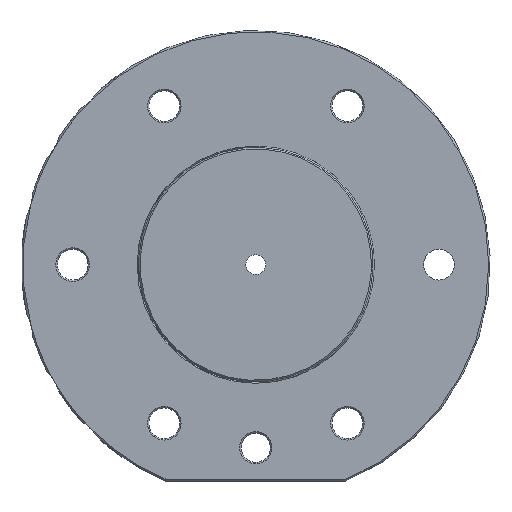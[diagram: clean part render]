
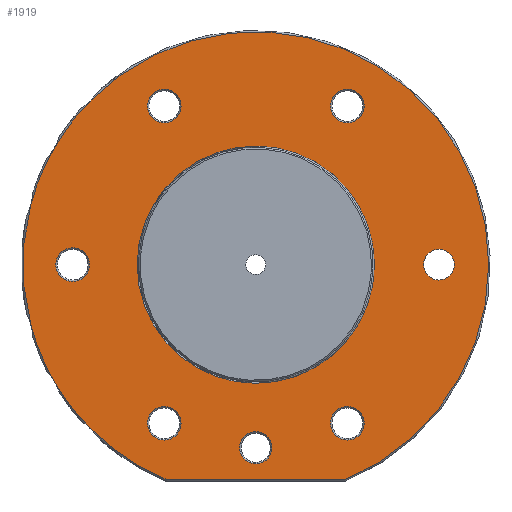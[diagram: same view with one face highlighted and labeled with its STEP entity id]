
A CAD part, top view. The second image highlights one B-rep face of the part: STEP entity #1919.
In plain terms, the highlighted planar face has unit normal (0, 0, 1).
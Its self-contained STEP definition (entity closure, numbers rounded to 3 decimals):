
#95=FACE_BOUND('',#582,.T.);
#96=FACE_BOUND('',#583,.T.);
#97=FACE_BOUND('',#584,.T.);
#98=FACE_BOUND('',#585,.T.);
#99=FACE_BOUND('',#586,.T.);
#100=FACE_BOUND('',#587,.T.);
#101=FACE_BOUND('',#588,.T.);
#102=FACE_BOUND('',#589,.T.);
#120=PLANE('',#2156);
#239=LINE('',#3370,#315);
#315=VECTOR('',#2595,10.);
#442=FACE_OUTER_BOUND('',#581,.T.);
#581=EDGE_LOOP('',(#1531,#1532,#1533,#1534,#1535,#1536,#1537,#1538));
#582=EDGE_LOOP('',(#1539));
#583=EDGE_LOOP('',(#1540));
#584=EDGE_LOOP('',(#1541));
#585=EDGE_LOOP('',(#1542));
#586=EDGE_LOOP('',(#1543));
#587=EDGE_LOOP('',(#1544));
#588=EDGE_LOOP('',(#1545));
#589=EDGE_LOOP('',(#1546));
#645=CIRCLE('',#2000,40.5);
#679=CIRCLE('',#2056,5.75);
#681=CIRCLE('',#2060,5.75);
#683=CIRCLE('',#2064,5.75);
#685=CIRCLE('',#2068,5.75);
#717=CIRCLE('',#2127,5.5);
#721=CIRCLE('',#2135,79.5);
#727=CIRCLE('',#2145,5.25);
#736=CIRCLE('',#2157,79.5);
#737=CIRCLE('',#2158,79.5);
#738=CIRCLE('',#2159,79.5);
#739=CIRCLE('',#2160,79.5);
#740=CIRCLE('',#2161,79.5);
#741=CIRCLE('',#2162,79.5);
#742=CIRCLE('',#2163,5.75);
#778=VERTEX_POINT('',#2829);
#824=VERTEX_POINT('',#3037);
#826=VERTEX_POINT('',#3045);
#828=VERTEX_POINT('',#3053);
#830=VERTEX_POINT('',#3061);
#870=VERTEX_POINT('',#3333);
#876=VERTEX_POINT('',#3353);
#877=VERTEX_POINT('',#3360);
#878=VERTEX_POINT('',#3366);
#886=VERTEX_POINT('',#3394);
#894=VERTEX_POINT('',#3416);
#895=VERTEX_POINT('',#3418);
#896=VERTEX_POINT('',#3420);
#897=VERTEX_POINT('',#3422);
#898=VERTEX_POINT('',#3424);
#899=VERTEX_POINT('',#3427);
#952=EDGE_CURVE('',#778,#778,#645,.T.);
#1011=EDGE_CURVE('',#824,#824,#679,.T.);
#1015=EDGE_CURVE('',#826,#826,#681,.T.);
#1019=EDGE_CURVE('',#828,#828,#683,.T.);
#1023=EDGE_CURVE('',#830,#830,#685,.T.);
#1084=EDGE_CURVE('',#870,#870,#717,.T.);
#1096=EDGE_CURVE('',#877,#876,#721,.T.);
#1098=EDGE_CURVE('',#878,#877,#239,.T.);
#1109=EDGE_CURVE('',#886,#886,#727,.T.);
#1119=EDGE_CURVE('',#894,#878,#736,.T.);
#1120=EDGE_CURVE('',#895,#894,#737,.T.);
#1121=EDGE_CURVE('',#896,#895,#738,.T.);
#1122=EDGE_CURVE('',#897,#896,#739,.T.);
#1123=EDGE_CURVE('',#898,#897,#740,.T.);
#1124=EDGE_CURVE('',#876,#898,#741,.T.);
#1125=EDGE_CURVE('',#899,#899,#742,.T.);
#1531=ORIENTED_EDGE('',*,*,#1098,.F.);
#1532=ORIENTED_EDGE('',*,*,#1119,.F.);
#1533=ORIENTED_EDGE('',*,*,#1120,.F.);
#1534=ORIENTED_EDGE('',*,*,#1121,.F.);
#1535=ORIENTED_EDGE('',*,*,#1122,.F.);
#1536=ORIENTED_EDGE('',*,*,#1123,.F.);
#1537=ORIENTED_EDGE('',*,*,#1124,.F.);
#1538=ORIENTED_EDGE('',*,*,#1096,.F.);
#1539=ORIENTED_EDGE('',*,*,#1084,.F.);
#1540=ORIENTED_EDGE('',*,*,#1019,.F.);
#1541=ORIENTED_EDGE('',*,*,#1011,.F.);
#1542=ORIENTED_EDGE('',*,*,#1109,.T.);
#1543=ORIENTED_EDGE('',*,*,#952,.F.);
#1544=ORIENTED_EDGE('',*,*,#1015,.F.);
#1545=ORIENTED_EDGE('',*,*,#1023,.F.);
#1546=ORIENTED_EDGE('',*,*,#1125,.F.);
#1919=ADVANCED_FACE('',(#442,#95,#96,#97,#98,#99,#100,#101,#102),#120,.T.);
#2000=AXIS2_PLACEMENT_3D('',#2830,#2268,#2269);
#2056=AXIS2_PLACEMENT_3D('',#3038,#2400,#2401);
#2060=AXIS2_PLACEMENT_3D('',#3046,#2410,#2411);
#2064=AXIS2_PLACEMENT_3D('',#3054,#2420,#2421);
#2068=AXIS2_PLACEMENT_3D('',#3062,#2430,#2431);
#2127=AXIS2_PLACEMENT_3D('',#3334,#2569,#2570);
#2135=AXIS2_PLACEMENT_3D('',#3364,#2591,#2592);
#2145=AXIS2_PLACEMENT_3D('',#3396,#2615,#2616);
#2156=AXIS2_PLACEMENT_3D('',#3415,#2638,#2639);
#2157=AXIS2_PLACEMENT_3D('',#3417,#2640,#2641);
#2158=AXIS2_PLACEMENT_3D('',#3419,#2642,#2643);
#2159=AXIS2_PLACEMENT_3D('',#3421,#2644,#2645);
#2160=AXIS2_PLACEMENT_3D('',#3423,#2646,#2647);
#2161=AXIS2_PLACEMENT_3D('',#3425,#2648,#2649);
#2162=AXIS2_PLACEMENT_3D('',#3426,#2650,#2651);
#2163=AXIS2_PLACEMENT_3D('',#3428,#2652,#2653);
#2268=DIRECTION('center_axis',(0.,0.,
1.));
#2269=DIRECTION('ref_axis',(-1.,0.,0.));
#2400=DIRECTION('center_axis',(0.,0.,
1.));
#2401=DIRECTION('ref_axis',(-1.,0.,0.));
#2410=DIRECTION('center_axis',(0.,0.,
1.));
#2411=DIRECTION('ref_axis',(-1.,0.,0.));
#2420=DIRECTION('center_axis',(0.,0.,
1.));
#2421=DIRECTION('ref_axis',(-1.,0.,0.));
#2430=DIRECTION('center_axis',(0.,0.,
1.));
#2431=DIRECTION('ref_axis',(-1.,0.,0.));
#2569=DIRECTION('center_axis',(0.,0.,
1.));
#2570=DIRECTION('ref_axis',(-1.,0.,0.));
#2591=DIRECTION('center_axis',(0.,0.,
-1.));
#2592=DIRECTION('ref_axis',(-1.,0.,0.));
#2595=DIRECTION('',(-1.,0.,0.));
#2615=DIRECTION('center_axis',(0.,0.,
-1.));
#2616=DIRECTION('ref_axis',(-1.,0.,0.));
#2638=DIRECTION('center_axis',(0.,0.,
1.));
#2639=DIRECTION('ref_axis',(1.,0.,0.));
#2640=DIRECTION('center_axis',(0.,0.,
-1.));
#2641=DIRECTION('ref_axis',(-1.,0.,0.));
#2642=DIRECTION('center_axis',(0.,0.,
-1.));
#2643=DIRECTION('ref_axis',(-1.,0.,0.));
#2644=DIRECTION('center_axis',(0.,0.,
-1.));
#2645=DIRECTION('ref_axis',(-1.,0.,0.));
#2646=DIRECTION('center_axis',(0.,0.,
-1.));
#2647=DIRECTION('ref_axis',(-1.,0.,0.));
#2648=DIRECTION('center_axis',(0.,0.,
-1.));
#2649=DIRECTION('ref_axis',(-1.,0.,0.));
#2650=DIRECTION('center_axis',(0.,0.,
-1.));
#2651=DIRECTION('ref_axis',(-1.,0.,0.));
#2652=DIRECTION('center_axis',(0.,0.,
1.));
#2653=DIRECTION('ref_axis',(-1.,0.,0.));
#2829=CARTESIAN_POINT('',(40.5,0.,90.));
#2830=CARTESIAN_POINT('Origin',(0.,0.,
90.));
#3037=CARTESIAN_POINT('',(-25.5,54.127,90.));
#3038=CARTESIAN_POINT('Origin',(-31.25,54.127,90.));
#3045=CARTESIAN_POINT('',(-25.5,-54.127,90.));
#3046=CARTESIAN_POINT('Origin',(-31.25,-54.127,90.));
#3053=CARTESIAN_POINT('',(37.,-54.127,90.));
#3054=CARTESIAN_POINT('Origin',(31.25,-54.127,90.));
#3061=CARTESIAN_POINT('',(37.,54.127,90.));
#3062=CARTESIAN_POINT('Origin',(31.25,54.127,90.));
#3333=CARTESIAN_POINT('',(5.5,-62.5,90.));
#3334=CARTESIAN_POINT('Origin',(0.,-62.5,90.));
#3353=CARTESIAN_POINT('',(-56.215,-56.215,90.));
#3360=CARTESIAN_POINT('',(-30.299,-73.5,90.));
#3364=CARTESIAN_POINT('Origin',(0.,0.,
90.));
#3366=CARTESIAN_POINT('',(30.299,-73.5,90.));
#3370=CARTESIAN_POINT('',(18.586,-73.5,90.));
#3394=CARTESIAN_POINT('',(67.75,0.,90.));
#3396=CARTESIAN_POINT('Origin',(62.5,0.,90.));
#3415=CARTESIAN_POINT('Origin',(0.,0.,
90.));
#3416=CARTESIAN_POINT('',(-56.215,56.215,90.));
#3417=CARTESIAN_POINT('Origin',(0.,0.,
90.));
#3418=CARTESIAN_POINT('',(-68.849,39.75,90.));
#3419=CARTESIAN_POINT('Origin',(0.,0.,
90.));
#3420=CARTESIAN_POINT('',(-76.791,20.576,90.));
#3421=CARTESIAN_POINT('Origin',(0.,0.,
90.));
#3422=CARTESIAN_POINT('',(-76.791,-20.576,90.));
#3423=CARTESIAN_POINT('Origin',(0.,0.,
90.));
#3424=CARTESIAN_POINT('',(-68.849,-39.75,90.));
#3425=CARTESIAN_POINT('Origin',(0.,0.,
90.));
#3426=CARTESIAN_POINT('Origin',(0.,0.,
90.));
#3427=CARTESIAN_POINT('',(-56.75,0.,90.));
#3428=CARTESIAN_POINT('Origin',(-62.5,0.,90.));
